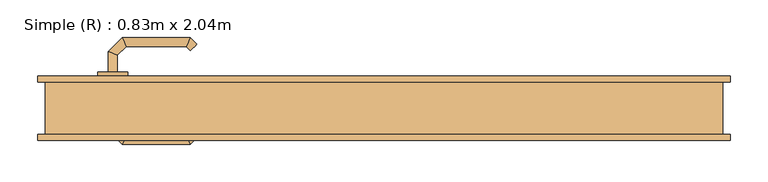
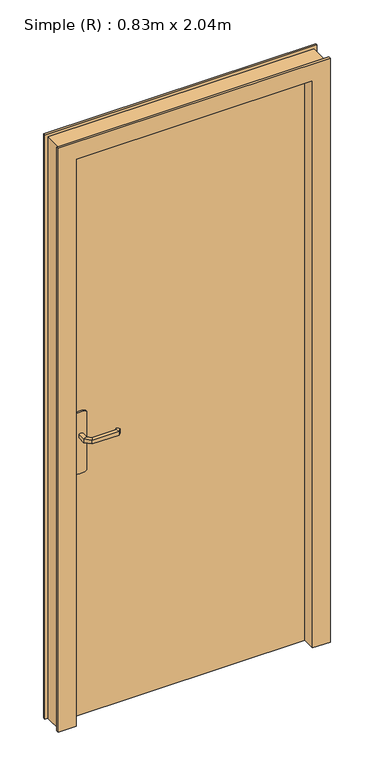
"""IFC4 building model written with IfcOpenShell, lengths in millimetres: door geometry, Simple (R) : 0.83m x 2.04m."""

import ifcopenshell
import ifcopenshell.guid

model = None  # the IFC model being written
_history = None  # IfcOwnerHistory: only IFC2X3 demands one
_inside = {}  # id of a spatial element -> (the spatial element, [elements in it])
_under = {}  # id of a project, library or spatial element -> (it, [spatial elements below it])
_declared = {}  # id of a project -> (the project, [libraries it declares])
_typed = {}  # id of a type object -> (the type object, [elements of that type])
_made_of = {}  # id of a material, layer set ... -> (it, [elements and type objects made of it])


def new_model(schema):
    """Start an empty IFC model of exactly this schema.

    Asked for "IFC4X3", IfcOpenShell would pick the latest addendum, in which some entities
    have other attributes; the version numbers below select the first issue.
    IFC2X3 requires an IfcOwnerHistory on every rooted entity: one is made here for all.
    """
    global model, _history
    if schema == "IFC4X3":
        model = ifcopenshell.file(schema_version=(4, 3, 0, 0))
    else:
        model = ifcopenshell.file(schema=schema)
    _inside.clear()
    _under.clear()
    _declared.clear()
    _typed.clear()
    _made_of.clear()
    _history = None
    if model.schema == "IFC2X3":
        org = make("IfcOrganization", Name="unknown")
        user = make(
            "IfcPersonAndOrganization",
            ThePerson=make("IfcPerson", FamilyName="unknown"),
            TheOrganization=org,
        )
        app = make(
            "IfcApplication",
            ApplicationDeveloper=org,
            Version="unknown",
            ApplicationFullName="unknown",
            ApplicationIdentifier="unknown",
        )
        _history = make(
            "IfcOwnerHistory",
            OwningUser=user,
            OwningApplication=app,
            ChangeAction="ADDED",
            CreationDate=0,
        )
    return model


def make(cls, **values):
    """One entity of the class cls with the attributes given. An attribute that is None is left unset."""
    return model.create_entity(
        cls, **{name: value for name, value in values.items() if value is not None}
    )


def rooted(cls, **values):
    """An entity with a GlobalId (a new one), such as an element, a storey or a relation."""
    return make(cls, GlobalId=ifcopenshell.guid.new(), OwnerHistory=_history, **values)


def si_unit(unit_type, name, prefix=None):
    """IfcSIUnit, for example si_unit("LENGTHUNIT", "METRE", prefix="MILLI")."""
    return make("IfcSIUnit", UnitType=unit_type, Prefix=prefix, Name=name)


def assignment(units):
    """IfcUnitAssignment: the units of a project."""
    return None if units is None else make("IfcUnitAssignment", Units=units)


def point(xyz):
    """IfcCartesianPoint."""
    return None if xyz is None else make("IfcCartesianPoint", Coordinates=xyz)


def direction(xyz):
    """IfcDirection."""
    return None if xyz is None else make("IfcDirection", DirectionRatios=xyz)


def frame(location, z_axis=None, x_axis=None):
    """IfcAxis2Placement3D, a coordinate frame: its origin and axes. An axis left out is left unset."""
    return make(
        "IfcAxis2Placement3D",
        Location=point(location),
        Axis=direction(z_axis),
        RefDirection=direction(x_axis),
    )


def frame_2d(location, x_axis=None):
    """IfcAxis2Placement2D, a coordinate frame in the plane: its origin and x axis."""
    return make(
        "IfcAxis2Placement2D", Location=point(location), RefDirection=direction(x_axis)
    )


def origin():
    """The frame at (0, 0, 0) with its axes left unset."""
    return frame((0.0, 0.0, 0.0))


def origin_with_axes():
    """The frame at (0, 0, 0) with the z axis (0, 0, 1) and the x axis (1, 0, 0) written out."""
    return frame((0.0, 0.0, 0.0), z_axis=(0.0, 0.0, 1.0), x_axis=(1.0, 0.0, 0.0))


def place(relative_to, where):
    """IfcLocalPlacement: puts the frame where relative to a parent placement (None: the world)."""
    return make(
        "IfcLocalPlacement", PlacementRelTo=relative_to, RelativePlacement=where
    )


def context(
    kind, dimensions, precision=None, world=None, true_north=None, identifier=None
):
    """IfcGeometricRepresentationContext, for example the 3D "Model" context."""
    return make(
        "IfcGeometricRepresentationContext",
        ContextIdentifier=identifier,
        ContextType=kind,
        CoordinateSpaceDimension=dimensions,
        Precision=precision,
        WorldCoordinateSystem=world,
        TrueNorth=true_north,
    )


def project(units=None, contexts=None):
    """IfcProject with its units and contexts."""
    return rooted(
        "IfcProject",
        Name="project",
        RepresentationContexts=contexts,
        UnitsInContext=assignment(units),
    )


def spatial(cls, under=None, at=None, **own):
    """A site, building, storey or space (cls), placed at a placement, below another one or the project."""
    s = rooted(cls, ObjectPlacement=at, **own)
    if under is not None:
        _under.setdefault(under.id(), (under, []))[1].append(s)
    return s


def polyline(points):
    """IfcPolyline through the points."""
    return make("IfcPolyline", Points=[point(p) for p in points])


def circle_curve(where, radius):
    """IfcCircle in the frame where."""
    return make("IfcCircle", Position=where, Radius=radius)


def ellipse_curve(where, semi_axis1, semi_axis2):
    """IfcEllipse in the frame where."""
    return make(
        "IfcEllipse", Position=where, SemiAxis1=semi_axis1, SemiAxis2=semi_axis2
    )


def trimmed(basis, trim1, trim2, sense, master):
    """IfcTrimmedCurve: the piece of a basis curve between two trims."""
    return make(
        "IfcTrimmedCurve",
        BasisCurve=basis,
        Trim1=trim1,
        Trim2=trim2,
        SenseAgreement=sense,
        MasterRepresentation=master,
    )


def segment(curve, same_sense, transition):
    """IfcCompositeCurveSegment."""
    return make(
        "IfcCompositeCurveSegment",
        Transition=transition,
        SameSense=same_sense,
        ParentCurve=curve,
    )


def composite_curve(segments, self_intersect=None):
    """IfcCompositeCurve: segments joined end to end."""
    return make("IfcCompositeCurve", Segments=segments, SelfIntersect=self_intersect)


def outline(outer, holes=None, kind="AREA"):
    """IfcArbitraryClosedProfileDef: a profile drawn as a closed curve; with holes, ...WithVoids."""
    if holes is None:
        return make("IfcArbitraryClosedProfileDef", ProfileType=kind, OuterCurve=outer)
    return make(
        "IfcArbitraryProfileDefWithVoids",
        ProfileType=kind,
        OuterCurve=outer,
        InnerCurves=holes,
    )


def extrude(swept, where, along, depth):
    """IfcExtrudedAreaSolid: the profile swept, set in the frame where, extruded along a direction by depth."""
    return make(
        "IfcExtrudedAreaSolid",
        SweptArea=swept,
        Position=where,
        ExtrudedDirection=direction(along),
        Depth=depth,
    )


def faces_of(points, faces, orient=None, outer=None):
    """IfcFace entities. A face is a list of loops; a loop is a list of indices into points, from 0.

    orient and outer hold one flag for each loop. By default every Orientation is true, the
    first loop of a face is its IfcFaceOuterBound and the others are IfcFaceBound.
    """
    made = []
    for i, loops in enumerate(faces):
        bounds = []
        for j, loop in enumerate(loops):
            is_outer = j == 0 if outer is None else outer[i][j]
            bounds.append(
                make(
                    "IfcFaceOuterBound" if is_outer else "IfcFaceBound",
                    Bound=make("IfcPolyLoop", Polygon=[points[k] for k in loop]),
                    Orientation=True if orient is None else orient[i][j],
                )
            )
        made.append(make("IfcFace", Bounds=bounds))
    return made


def faceted_brep(points, faces, orient=None, outer=None, voids=None):
    """IfcFacetedBrep: a solid bounded by flat faces; with voids (closed shells), ...WithVoids."""
    shared = [point(p) for p in points]
    hull = make("IfcClosedShell", CfsFaces=faces_of(shared, faces, orient, outer))
    if voids is None:
        return make("IfcFacetedBrep", Outer=hull)
    return make(
        "IfcFacetedBrepWithVoids",
        Outer=hull,
        Voids=[
            make(cls, CfsFaces=faces_of(shared, fs, o, b)) for cls, fs, o, b in voids
        ],
    )


def shape(context_of_items, identifier, shape_type, items):
    """IfcShapeRepresentation: the items that make up one representation, for example the "Body"."""
    return make(
        "IfcShapeRepresentation",
        ContextOfItems=context_of_items,
        RepresentationIdentifier=identifier,
        RepresentationType=shape_type,
        Items=items,
    )


def source(mapping_origin, context_of_items, identifier, shape_type, items):
    """IfcRepresentationMap: a shape defined once, which mapped items show again and again."""
    return make(
        "IfcRepresentationMap",
        MappingOrigin=mapping_origin,
        MappedRepresentation=shape(context_of_items, identifier, shape_type, items),
    )


def transform(
    local_origin,
    x_axis=None,
    y_axis=None,
    z_axis=None,
    scale=None,
    scale2=None,
    scale3=None,
    uniform=True,
):
    """IfcCartesianTransformationOperator3D, or its non-uniform kind. x_axis, y_axis, z_axis: its Axis1, 2, 3."""
    if uniform:
        return make(
            "IfcCartesianTransformationOperator3D",
            Axis1=direction(x_axis),
            Axis2=direction(y_axis),
            LocalOrigin=point(local_origin),
            Scale=scale,
            Axis3=direction(z_axis),
        )
    return make(
        "IfcCartesianTransformationOperator3DnonUniform",
        Axis1=direction(x_axis),
        Axis2=direction(y_axis),
        LocalOrigin=point(local_origin),
        Scale=scale,
        Axis3=direction(z_axis),
        Scale2=scale2,
        Scale3=scale3,
    )


def mapped(mapping_source, mapping_target):
    """IfcMappedItem: shows the shape of a source again, moved by a transform."""
    return make(
        "IfcMappedItem", MappingSource=mapping_source, MappingTarget=mapping_target
    )


def made_of(thing, what):
    """Note that an element or type object is made of a material, layer set ...; save() writes the relation."""
    if what is not None:
        _made_of.setdefault(what.id(), (what, []))[1].append(thing)
    return thing


def element(
    cls,
    number,
    at=None,
    inside=None,
    cuts=None,
    type_object=None,
    material=None,
    context=None,
    identifier="Body",
    shape_type=None,
    held_by="IfcProductDefinitionShape",
    body=None,
    shapes=None,
    **own,
):
    """One element of the class cls, such as IfcWall. Its Tag is "e" and its number.

    at: its placement. inside: the storey or other place that contains it. cuts: it is an
    opening in that element (IfcRelVoidsElement). A single representation is given by context,
    identifier, shape_type and body (its items); several are given by shapes. held_by: the class
    of the entity that holds the representations. save() writes the other relations.
    """
    e = rooted(cls, Tag="e%d" % number, ObjectPlacement=at, **own)
    if body is not None:
        shapes = [shape(context, identifier, shape_type, body)]
    if shapes is not None:
        e.Representation = make(held_by, Representations=shapes)
    if inside is not None:
        _inside.setdefault(inside.id(), (inside, []))[1].append(e)
    if cuts is not None:
        rooted(
            "IfcRelVoidsElement", RelatingBuildingElement=cuts, RelatedOpeningElement=e
        )
    if type_object is not None:
        _typed.setdefault(type_object.id(), (type_object, []))[1].append(e)
    return made_of(e, material)


def aggregate(whole, parts):
    """IfcRelAggregates: a whole, such as a stair, and the parts it consists of."""
    return rooted("IfcRelAggregates", RelatingObject=whole, RelatedObjects=parts)


def save(model, path):
    """Write the relations noted so far, then the file.

    IfcRelAggregates (storeys below a building ...), IfcRelContainedInSpatialStructure (elements
    in a storey), IfcRelDefinesByType, IfcRelAssociatesMaterial and IfcRelDeclares: one each for
    every whole, place, type object, material and project.
    """
    for whole, parts in _under.values():
        aggregate(whole, parts)
    for where, things in _inside.values():
        rooted(
            "IfcRelContainedInSpatialStructure",
            RelatedElements=things,
            RelatingStructure=where,
        )
    for kind, things in _typed.values():
        rooted("IfcRelDefinesByType", RelatedObjects=things, RelatingType=kind)
    for what, things in _made_of.values():
        rooted("IfcRelAssociatesMaterial", RelatedObjects=things, RelatingMaterial=what)
    for by, libraries in _declared.values():
        rooted("IfcRelDeclares", RelatingContext=by, RelatedDefinitions=libraries)
    model.write(path)


def plane_surface(at):
    """IfcPlane: the flat surface through the origin of the frame at, square to its z axis."""
    return make("IfcPlane", Position=at)


def cylinder_surface(at, radius):
    """IfcCylindricalSurface: all points at the distance radius from the z axis of the frame at."""
    return make("IfcCylindricalSurface", Position=at, Radius=radius)


def advanced_brep(points, edges, surfaces, faces):
    """IfcAdvancedBrep: a solid bounded by faces that lie on surfaces and meet in shared edges.

    An edge is (start, end): straight between two places in points (the first is 0);
    or (start, end, curve); or (start, end, curve, False) where it runs against its curve.
    A face is (place in surfaces, loops), or (place, loops, False) where it looks against
    its surface's normal. A loop lists edges by number (the first is 1), with a minus sign
    where the edge is run from its end to its start. The first loop is the outer one.
    """
    corners = [point(p) for p in points]
    vertices = [make("IfcVertexPoint", VertexGeometry=c) for c in corners]
    made = []
    for start, end, *more in edges:
        made.append(
            make(
                "IfcEdgeCurve",
                EdgeStart=vertices[start],
                EdgeEnd=vertices[end],
                EdgeGeometry=more[0] if more else make("IfcPolyline", Points=[corners[start], corners[end]]),
                SameSense=more[1] if len(more) > 1 else True,
            )
        )
    hull = []
    for where, loops, *sense in faces:
        bounds = []
        for j, loop in enumerate(loops):
            ring = [make("IfcOrientedEdge", EdgeElement=made[abs(k) - 1], Orientation=k > 0) for k in loop]
            bounds.append(
                make(
                    "IfcFaceOuterBound" if j == 0 else "IfcFaceBound",
                    Bound=make("IfcEdgeLoop", EdgeList=ring),
                    Orientation=True,
                )
            )
        hull.append(make("IfcAdvancedFace", Bounds=bounds, FaceSurface=surfaces[where], SameSense=sense[0] if sense else True))
    return make("IfcAdvancedBrep", Outer=make("IfcClosedShell", CfsFaces=hull))


def simple_r_0_83m_x_2_04m_4088704a(model_context):
    return source(origin(), model_context, "Body", "SolidModel", [
        advanced_brep(
        [(-354.0, -2.0, 993.0), (-366.0, -2.0, 993.0), (-366.0, -2.0, 1007.0), (-354.0, -2.0, 1007.0), (-354.0, -24.4852045, 1007.0), (-354.0, -24.4852045, 993.0), (-366.0, -29.4557673, 1007.0), (-366.0, -29.4557673, 993.0), (-342.5147186, -35.9704859, 1007.0), (-342.5147186, -35.9704859, 993.0), (-347.4852814, -47.9704859, 1007.0), (-347.4852814, -47.9704859, 993.0), (-262.4394977, -35.9704859, 1007.0), (-262.4394977, -35.9704859, 993.0), (-257.468935, -47.9704859, 1007.0), (-257.468935, -47.9704859, 993.0), (-257.1257892, -30.6567774, 993.0), (-257.1257892, -30.6567774, 1007.0), (-248.6405078, -39.1420588, 1007.0), (-248.6405078, -39.1420588, 993.0)],
        [
            (0, 1, circle_curve(frame((-360.0, -2.0, 1013.0457722), z_axis=(0.0, 1.0, 0.0), x_axis=(-1.0, 0.0, 0.0)), 20.9244589)),
            (1, 2),
            (2, 3, circle_curve(frame((-360.0, -2.0, 986.9542278), z_axis=(0.0, 1.0, 0.0), x_axis=(-1.0, 0.0, 0.0)), 20.9244589)),
            (3, 0),
            (3, 4),
            (4, 5),
            (5, 0),
            (2, 6),
            (6, 4, ellipse_curve(frame((-360.0, -26.9704859, 986.9542278), z_axis=(-0.38268343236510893, 0.9238795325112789, 0.0), x_axis=(0.9238795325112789, 0.3826834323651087, 0.0)), 22.6484711, 20.9244589)),
            (1, 7),
            (7, 6),
            (5, 7, ellipse_curve(frame((-360.0, -26.9704859, 1013.0457722), z_axis=(-0.38268343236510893, 0.9238795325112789, 0.0), x_axis=(0.9238795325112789, 0.3826834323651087, 0.0)), 22.6484711, 20.9244589)),
            (4, 8),
            (8, 9),
            (9, 5),
            (6, 10),
            (10, 8, ellipse_curve(frame((-345.0, -41.9704859, 986.9542278), z_axis=(-0.9238795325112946, 0.38268343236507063, 0.0), x_axis=(0.3826834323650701, 0.9238795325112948, 0.0)), 22.6484711, 20.9244589)),
            (7, 11),
            (11, 10),
            (9, 11, ellipse_curve(frame((-345.0, -41.9704859, 1013.0457722), z_axis=(-0.9238795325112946, 0.38268343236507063, 0.0), x_axis=(0.3826834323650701, 0.9238795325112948, 0.0)), 22.6484711, 20.9244589)),
            (8, 12),
            (12, 13),
            (13, 9),
            (10, 14),
            (14, 12, ellipse_curve(frame((-259.9542163, -41.9704859, 986.9542278), z_axis=(-0.9238795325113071, -0.38268343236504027, 0.0), x_axis=(-0.38268343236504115, 0.9238795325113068, 0.0)), 22.6484711, 20.9244589)),
            (11, 15),
            (15, 14),
            (13, 15, ellipse_curve(frame((-259.9542163, -41.9704859, 1013.0457722), z_axis=(-0.9238795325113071, -0.38268343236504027, 0.0), x_axis=(-0.38268343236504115, 0.9238795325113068, 0.0)), 22.6484711, 20.9244589)),
            (16, 17),
            (17, 18, circle_curve(frame((-252.8831485, -34.8994181, 986.9542278), z_axis=(0.7071067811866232, 0.7071067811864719, 0.0), x_axis=(0.7071067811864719, -0.7071067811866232, 0.0)), 20.9244589)),
            (18, 19),
            (19, 16, circle_curve(frame((-252.8831485, -34.8994181, 1013.0457722), z_axis=(0.7071067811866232, 0.7071067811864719, 0.0), x_axis=(0.7071067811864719, -0.7071067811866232, 0.0)), 20.9244589)),
            (12, 17),
            (16, 13),
            (14, 18),
            (15, 19),
        ],
        [
            plane_surface(frame((-369.2195445, -2.0, 1000.0), z_axis=(0.0, 1.0, 0.0), x_axis=(0.0, 0.0, 1.0))),
            plane_surface(frame((-354.0, -2.0, 993.0), z_axis=(1.0, 0.0, 0.0), x_axis=(0.0, -1.0, 0.0))),
            cylinder_surface(frame((-360.0, -2.0, 986.9542278), z_axis=(0.0, 1.0, 0.0), x_axis=(-1.0, 0.0, 0.0)), 20.9244589),
            plane_surface(frame((-366.0, -2.0, 1007.0), z_axis=(-1.0, 0.0, 0.0), x_axis=(0.0, -1.0, 0.0))),
            cylinder_surface(frame((-360.0, -2.0, 1013.0457722), z_axis=(0.0, 1.0, 0.0), x_axis=(-1.0, 0.0, 0.0)), 20.9244589),
            plane_surface(frame((-354.0, -24.4852045, 993.0), z_axis=(0.707106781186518, 0.707106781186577, 0.0), x_axis=(0.707106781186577, -0.707106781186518, 0.0))),
            cylinder_surface(frame((-360.0, -26.9704859, 986.9542278), z_axis=(-0.7071067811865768, 0.7071067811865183, 0.0), x_axis=(-0.7071067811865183, -0.7071067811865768, 0.0)), 20.9244589),
            plane_surface(frame((-366.0, -29.4557673, 1007.0), z_axis=(-0.7071067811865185, -0.7071067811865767, 0.0), x_axis=(0.7071067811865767, -0.7071067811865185, 0.0))),
            cylinder_surface(frame((-360.0, -26.9704859, 1013.0457722), z_axis=(-0.7071067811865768, 0.7071067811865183, 0.0), x_axis=(-0.7071067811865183, -0.7071067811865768, 0.0)), 20.9244589),
            plane_surface(frame((-342.5147186, -35.9704859, 993.0), z_axis=(0.0, 1.0, 0.0), x_axis=(1.0, 0.0, 0.0))),
            cylinder_surface(frame((-345.0, -41.9704859, 986.9542278), z_axis=(-1.0, 0.0, 0.0), x_axis=(0.0, -1.0, 0.0)), 20.9244589),
            plane_surface(frame((-347.4852814, -47.9704859, 1007.0), z_axis=(0.0, -1.0, 0.0), x_axis=(1.0, 0.0, 0.0))),
            cylinder_surface(frame((-345.0, -41.9704859, 1013.0457722), z_axis=(-1.0, 0.0, 0.0), x_axis=(0.0, -1.0, 0.0)), 20.9244589),
            plane_surface(frame((-252.8831485, -34.8994181, 990.7804555), z_axis=(0.7071067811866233, 0.7071067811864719, 0.0), x_axis=(0.7071067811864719, -0.7071067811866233, 0.0))),
            plane_surface(frame((-262.4394977, -35.9704859, 993.0), z_axis=(-0.707106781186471, 0.7071067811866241, 0.0), x_axis=(0.7071067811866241, 0.707106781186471, 0.0))),
            cylinder_surface(frame((-259.9542163, -41.9704859, 986.9542278), z_axis=(-0.7071067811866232, -0.7071067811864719, 0.0), x_axis=(0.7071067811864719, -0.7071067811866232, 0.0)), 20.9244589),
            plane_surface(frame((-257.468935, -47.9704859, 1007.0), z_axis=(0.7071067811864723, -0.7071067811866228, 0.0), x_axis=(0.7071067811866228, 0.7071067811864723, 0.0))),
            cylinder_surface(frame((-259.9542163, -41.9704859, 1013.0457722), z_axis=(-0.7071067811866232, -0.7071067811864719, 0.0), x_axis=(0.7071067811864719, -0.7071067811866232, 0.0)), 20.9244589),
        ],
        [
            (0, [[1, 2, 3, 4]]),
            (1, [[5, 6, 7, -4]]),
            (2, [[8, 9, -5, -3]]),
            (3, [[10, 11, -8, -2]]),
            (4, [[-7, 12, -10, -1]]),
            (5, [[13, 14, 15, -6]]),
            (6, [[16, 17, -13, -9]]),
            (7, [[18, 19, -16, -11]]),
            (8, [[-15, 20, -18, -12]]),
            (9, [[21, 22, 23, -14]]),
            (10, [[24, 25, -21, -17]]),
            (11, [[26, 27, -24, -19]]),
            (12, [[-23, 28, -26, -20]]),
            (13, [[29, 30, 31, 32]]),
            (14, [[33, -29, 34, -22]]),
            (15, [[35, -30, -33, -25]]),
            (16, [[36, -31, -35, -27]]),
            (17, [[-34, -32, -36, -28]]),
        ],
    ),
        advanced_brep(
        [(-366.0, 48.0, 1007.0), (-366.0, 48.0, 993.0), (-354.0, 48.0, 993.0), (-354.0, 48.0, 1007.0), (-354.0, 70.680388, 1007.0), (-366.0, 75.6509507, 1007.0), (-354.0, 70.680388, 993.0), (-366.0, 75.6509507, 993.0), (-342.6522273, 82.0281607, 1007.0), (-347.62279, 94.0281607, 1007.0), (-342.6522273, 82.0281607, 993.0), (-347.62279, 94.0281607, 993.0), (-262.4666408, 82.0281607, 1007.0), (-257.496078, 94.0281607, 1007.0), (-262.4666408, 82.0281607, 993.0), (-257.496078, 94.0281607, 993.0), (-248.6676509, 85.1997336, 1007.0), (-257.1529323, 76.7144522, 1007.0), (-257.1529323, 76.7144522, 993.0), (-248.6676509, 85.1997336, 993.0)],
        [
            (0, 1),
            (1, 2, circle_curve(frame((-360.0, 48.0, 1013.0457722), z_axis=(0.0, -1.0, 0.0), x_axis=(1.0, 0.0, 0.0)), 20.9244589)),
            (2, 3),
            (3, 0, circle_curve(frame((-360.0, 48.0, 986.9542278), z_axis=(0.0, -1.0, 0.0), x_axis=(1.0, 0.0, 0.0)), 20.9244589)),
            (3, 4),
            (4, 5, ellipse_curve(frame((-360.0, 73.1656693, 986.9542278), z_axis=(-0.3826834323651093, -0.9238795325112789, 0.0), x_axis=(0.9238795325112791, -0.38268343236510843, 0.0)), 22.6484711, 20.9244589)),
            (5, 0),
            (2, 6),
            (6, 4),
            (1, 7),
            (7, 6, ellipse_curve(frame((-360.0, 73.1656693, 1013.0457722), z_axis=(-0.3826834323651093, -0.9238795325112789, 0.0), x_axis=(0.9238795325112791, -0.38268343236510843, 0.0)), 22.6484711, 20.9244589)),
            (5, 7),
            (4, 8),
            (8, 9, ellipse_curve(frame((-345.1375086, 88.0281607, 986.9542278), z_axis=(-0.9238795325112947, -0.38268343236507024, 0.0), x_axis=(0.3826834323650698, -0.9238795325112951, 0.0)), 22.6484711, 20.9244589)),
            (9, 5),
            (6, 10),
            (10, 8),
            (7, 11),
            (11, 10, ellipse_curve(frame((-345.1375086, 88.0281607, 1013.0457722), z_axis=(-0.9238795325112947, -0.38268343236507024, 0.0), x_axis=(0.3826834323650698, -0.9238795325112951, 0.0)), 22.6484711, 20.9244589)),
            (9, 11),
            (8, 12),
            (12, 13, ellipse_curve(frame((-259.9813594, 88.0281607, 986.9542278), z_axis=(-0.9238795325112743, 0.3826834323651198, 0.0), x_axis=(-0.38268343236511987, -0.9238795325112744, 0.0)), 22.6484711, 20.9244589)),
            (13, 9),
            (10, 14),
            (14, 12),
            (11, 15),
            (15, 14, ellipse_curve(frame((-259.9813594, 88.0281607, 1013.0457722), z_axis=(-0.9238795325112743, 0.3826834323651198, 0.0), x_axis=(-0.38268343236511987, -0.9238795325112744, 0.0)), 22.6484711, 20.9244589)),
            (13, 15),
            (16, 17, circle_curve(frame((-252.9102916, 80.9570929, 986.9542278), z_axis=(0.7071067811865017, -0.7071067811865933, 0.0), x_axis=(-0.7071067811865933, -0.7071067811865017, 0.0)), 20.9244589)),
            (17, 18),
            (18, 19, circle_curve(frame((-252.9102916, 80.9570929, 1013.0457722), z_axis=(0.7071067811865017, -0.7071067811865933, 0.0), x_axis=(-0.7071067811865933, -0.7071067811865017, 0.0)), 20.9244589)),
            (19, 16),
            (12, 17),
            (16, 13),
            (14, 18),
            (15, 19),
        ],
        [
            plane_surface(frame((-369.2195445, 48.0, 1000.0), z_axis=(0.0, -1.0, 0.0), x_axis=(0.0, 0.0, -1.0))),
            cylinder_surface(frame((-360.0, 48.0, 986.9542278), z_axis=(0.0, -1.0, 0.0), x_axis=(1.0, 0.0, 0.0)), 20.9244589),
            plane_surface(frame((-354.0, 48.0, 1007.0), z_axis=(1.0, 0.0, 0.0), x_axis=(0.0, 1.0, 0.0))),
            cylinder_surface(frame((-360.0, 48.0, 1013.0457722), z_axis=(0.0, -1.0, 0.0), x_axis=(1.0, 0.0, 0.0)), 20.9244589),
            plane_surface(frame((-366.0, 48.0, 993.0), z_axis=(-1.0, 0.0, 0.0), x_axis=(0.0, 1.0, 0.0))),
            cylinder_surface(frame((-360.0, 73.1656693, 986.9542278), z_axis=(-0.7071067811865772, -0.7071067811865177, 0.0), x_axis=(0.7071067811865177, -0.7071067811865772, 0.0)), 20.9244589),
            plane_surface(frame((-354.0, 70.680388, 1007.0), z_axis=(0.7071067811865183, -0.7071067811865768, 0.0), x_axis=(0.7071067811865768, 0.7071067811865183, 0.0))),
            cylinder_surface(frame((-360.0, 73.1656693, 1013.0457722), z_axis=(-0.7071067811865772, -0.7071067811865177, 0.0), x_axis=(0.7071067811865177, -0.7071067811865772, 0.0)), 20.9244589),
            plane_surface(frame((-366.0, 75.6509507, 993.0), z_axis=(-0.707106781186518, 0.707106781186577, 0.0), x_axis=(0.707106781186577, 0.707106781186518, 0.0))),
            cylinder_surface(frame((-345.1375086, 88.0281607, 986.9542278), z_axis=(-1.0, 0.0, 0.0), x_axis=(0.0, -1.0, 0.0)), 20.9244589),
            plane_surface(frame((-342.6522273, 82.0281607, 1007.0), z_axis=(0.0, -1.0, 0.0), x_axis=(1.0, 0.0, 0.0))),
            cylinder_surface(frame((-345.1375086, 88.0281607, 1013.0457722), z_axis=(-1.0, 0.0, 0.0), x_axis=(0.0, -1.0, 0.0)), 20.9244589),
            plane_surface(frame((-347.62279, 94.0281607, 993.0), z_axis=(0.0, 1.0, 0.0), x_axis=(1.0, 0.0, 0.0))),
            plane_surface(frame((-252.9102916, 80.9570929, 1009.2195445), z_axis=(0.7071067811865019, -0.7071067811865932, 0.0), x_axis=(0.7071067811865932, 0.7071067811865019, 0.0))),
            cylinder_surface(frame((-259.9813594, 88.0281607, 986.9542278), z_axis=(-0.7071067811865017, 0.7071067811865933, 0.0), x_axis=(-0.7071067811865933, -0.7071067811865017, 0.0)), 20.9244589),
            plane_surface(frame((-262.4666408, 82.0281607, 1007.0), z_axis=(-0.7071067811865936, -0.7071067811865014, 0.0), x_axis=(0.7071067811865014, -0.7071067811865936, 0.0))),
            cylinder_surface(frame((-259.9813594, 88.0281607, 1013.0457722), z_axis=(-0.7071067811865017, 0.7071067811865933, 0.0), x_axis=(-0.7071067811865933, -0.7071067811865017, 0.0)), 20.9244589),
            plane_surface(frame((-257.496078, 94.0281607, 993.0), z_axis=(0.707106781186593, 0.7071067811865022, 0.0), x_axis=(0.7071067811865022, -0.707106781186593, 0.0))),
        ],
        [
            (0, [[1, 2, 3, 4]]),
            (1, [[5, 6, 7, -4]]),
            (2, [[8, 9, -5, -3]]),
            (3, [[10, 11, -8, -2]]),
            (4, [[-7, 12, -10, -1]]),
            (5, [[13, 14, 15, -6]]),
            (6, [[16, 17, -13, -9]]),
            (7, [[18, 19, -16, -11]]),
            (8, [[-15, 20, -18, -12]]),
            (9, [[21, 22, 23, -14]]),
            (10, [[24, 25, -21, -17]]),
            (11, [[26, 27, -24, -19]]),
            (12, [[-23, 28, -26, -20]]),
            (13, [[29, 30, 31, 32]]),
            (14, [[33, -29, 34, -22]]),
            (15, [[35, -30, -33, -25]]),
            (16, [[36, -31, -35, -27]]),
            (17, [[-34, -32, -36, -28]]),
        ],
    ),
        extrude(outline(composite_curve([segment(trimmed(circle_curve(frame_2d((1045.3589838, -360.0)), 40.0), [point((1080.0, -340.0))], [point((1080.0, -380.0))], False, "CARTESIAN"), True, "CONTINUOUS"), segment(polyline([(1080.0, -380.0), (870.0, -380.0)]), True, "CONTINUOUS"), segment(trimmed(circle_curve(frame_2d((904.6410162, -360.0)), 40.0), [point((870.0, -380.0))], [point((870.0, -340.0))], False, "CARTESIAN"), True, "CONTINUOUS"), segment(polyline([(870.0, -340.0), (1080.0, -340.0)]), True, "CONTINUOUS")], self_intersect=False)), frame((0.0, -2.0, 0.0), z_axis=(0.0, 1.0, 0.0), x_axis=(0.0, 0.0, 1.0)), (0.0, 0.0, 1.0), 5.0),
        extrude(outline(composite_curve([segment(trimmed(circle_curve(frame_2d((904.6410162, -360.0)), 40.0), [point((870.0, -380.0))], [point((870.0, -340.0))], False, "CARTESIAN"), True, "CONTINUOUS"), segment(polyline([(870.0, -340.0), (1080.0, -340.0)]), True, "CONTINUOUS"), segment(trimmed(circle_curve(frame_2d((1045.3589838, -360.0)), 40.0), [point((1080.0, -340.0))], [point((1080.0, -380.0))], False, "CARTESIAN"), True, "CONTINUOUS"), segment(polyline([(1080.0, -380.0), (870.0, -380.0)]), True, "CONTINUOUS")], self_intersect=False)), frame((0.0, 43.0, 0.0), z_axis=(0.0, 1.0, 0.0), x_axis=(0.0, 0.0, 1.0)), (0.0, 0.0, 1.0), 5.0),
        faceted_brep([(-450.0, 35.0, 0.0), (-460.0, 35.0, 0.0), (-460.0, 43.0, 0.0), (-415.0, 43.0, 0.0), (-415.0, 3.0, 0.0), (-400.0, 3.0, 0.0), (-400.0, -43.0, 0.0), (-460.0, -43.0, 0.0), (-460.0, -35.0, 0.0), (-450.0, -35.0, 0.0), (-450.0, -35.0, 2075.0), (-450.0, 35.0, 2075.0), (-460.0, -35.0, 2085.0), (460.0, -35.0, 2085.0), (460.0, -35.0, 0.0), (450.0, -35.0, 0.0), (450.0, -35.0, 2075.0), (-460.0, -43.0, 2085.0), (-400.0, -43.0, 2025.0), (400.0, -43.0, 2025.0), (400.0, -43.0, 0.0), (460.0, -43.0, 0.0), (460.0, -43.0, 2085.0), (-400.0, 3.0, 2025.0), (-415.0, 3.0, 2040.0), (415.0, 3.0, 2040.0), (415.0, 3.0, 0.0), (400.0, 3.0, 0.0), (400.0, 3.0, 2025.0), (-415.0, 43.0, 2040.0), (-460.0, 43.0, 2085.0), (460.0, 43.0, 2085.0), (460.0, 43.0, 0.0), (415.0, 43.0, 0.0), (415.0, 43.0, 2040.0), (-460.0, 35.0, 2085.0), (450.0, 35.0, 2075.0), (450.0, 35.0, 0.0), (460.0, 35.0, 0.0), (460.0, 35.0, 2085.0)], [[[0, 1, 2, 3, 4, 5, 6, 7, 8, 9]], [[9, 10, 11, 0]], [[8, 12, 13, 14, 15, 16, 10, 9]], [[7, 17, 12, 8]], [[6, 18, 19, 20, 21, 22, 17, 7]], [[5, 23, 18, 6]], [[4, 24, 25, 26, 27, 28, 23, 5]], [[3, 29, 24, 4]], [[2, 30, 31, 32, 33, 34, 29, 3]], [[1, 35, 30, 2]], [[0, 11, 36, 37, 38, 39, 35, 1]], [[10, 16, 36, 11]], [[17, 22, 13, 12]], [[23, 28, 19, 18]], [[29, 34, 25, 24]], [[35, 39, 31, 30]], [[37, 15, 14, 21, 20, 27, 26, 33, 32, 38]], [[16, 15, 37, 36]], [[22, 21, 14, 13]], [[28, 27, 20, 19]], [[34, 33, 26, 25]], [[39, 38, 32, 31]]]),
        extrude(outline(polyline([(415.0, 43.0), (415.0, 3.0), (-415.0, 3.0), (-415.0, 43.0), (415.0, 43.0)])), origin_with_axes(), (0.0, 0.0, 1.0), 2040.0),
    ])


if __name__ == "__main__":
    model = new_model("IFC4")
    model_context = context("Model", 3, world=origin())
    ifc_project = project(units=[si_unit("LENGTHUNIT", "METRE", prefix="MILLI")], contexts=[model_context])
    site = spatial("IfcSite", under=ifc_project)
    building = spatial("IfcBuilding", under=site)
    placement = place(None, origin())
    simple_r_0_83m_x_2_04m_shape = simple_r_0_83m_x_2_04m_4088704a(model_context)
    element("IfcDoor", 1, ObjectType="Simple (R) : 0.83m x 2.04m", at=placement, inside=building, context=model_context, shape_type="MappedRepresentation", body=[
        mapped(simple_r_0_83m_x_2_04m_shape, transform((0.0, 0.0, 0.0), x_axis=(1.0, 0.0, 0.0), y_axis=(0.0, 1.0, 0.0), z_axis=(0.0, 0.0, 1.0))),
    ])
    save(model, "model.ifc")
